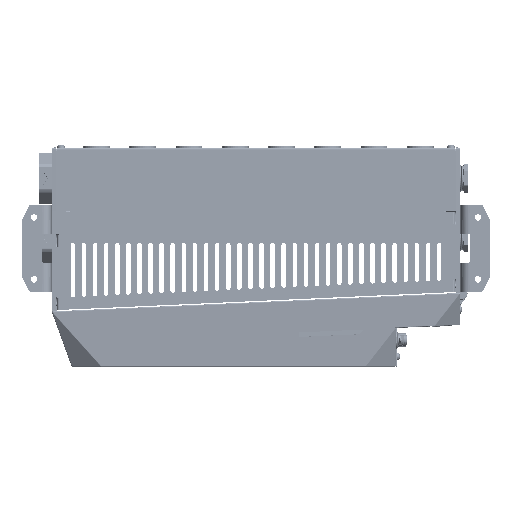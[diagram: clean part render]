
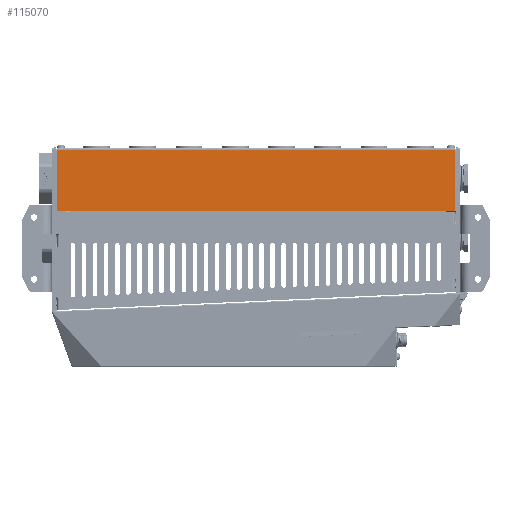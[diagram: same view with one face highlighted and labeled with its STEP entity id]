
A CAD part, left-side view. The second image highlights one B-rep face of the part: STEP entity #115070.
In plain terms, the highlighted planar face has unit normal (-1, 0, 0) as drawn and (0, -1, 0) by its records, which use the part's own axes.
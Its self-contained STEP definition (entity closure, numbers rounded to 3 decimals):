
#2556 = LINE ( 'NONE', #220484, #183594 ) ;
#8704 = PLANE ( 'NONE',  #114909 ) ;
#12255 = DIRECTION ( 'NONE',  ( 0., -1., 0. ) ) ;
#12379 = ORIENTED_EDGE ( 'NONE', *, *, #145878, .T. ) ;
#18455 = CARTESIAN_POINT ( 'NONE',  ( -68., -84., -214. ) ) ;
#29157 = DIRECTION ( 'NONE',  ( 0., -1., 0. ) ) ;
#34187 = EDGE_CURVE ( 'NONE', #339741, #169301, #235013, .T. ) ;
#35801 = FACE_OUTER_BOUND ( 'NONE', #261559, .T. ) ;
#44717 = CARTESIAN_POINT ( 'NONE',  ( -2., -84., 215. ) ) ;
#59848 = CARTESIAN_POINT ( 'NONE',  ( -68., -84., 215. ) ) ;
#68806 = CARTESIAN_POINT ( 'NONE',  ( -2., -84., -215. ) ) ;
#84094 = AXIS2_PLACEMENT_3D ( 'NONE', #90867, #89130, #172001 ) ;
#84995 = LINE ( 'NONE', #59848, #349911 ) ;
#89130 = DIRECTION ( 'NONE',  ( 0., -1., 0. ) ) ;
#90867 = CARTESIAN_POINT ( 'NONE',  ( -67., -84., 214. ) ) ;
#93702 = CARTESIAN_POINT ( 'NONE',  ( -2., -84., 215. ) ) ;
#114909 = AXIS2_PLACEMENT_3D ( 'NONE', #312998, #12255, #204904 ) ;
#115070 = ADVANCED_FACE ( 'NONE', ( #35801 ), #8704, .T. ) ;
#123793 = VERTEX_POINT ( 'NONE', #18455 ) ;
#131872 = VECTOR ( 'NONE', #133032, 1000. ) ;
#132047 = VERTEX_POINT ( 'NONE', #227909 ) ;
#133032 = DIRECTION ( 'NONE',  ( 0., 0., -1. ) ) ;
#134648 = EDGE_CURVE ( 'NONE', #282252, #339741, #213873, .T. ) ;
#137344 = DIRECTION ( 'NONE',  ( 1., 0., 0. ) ) ;
#137873 = DIRECTION ( 'NONE',  ( -1., 0., 0. ) ) ;
#145878 = EDGE_CURVE ( 'NONE', #247214, #123793, #84995, .T. ) ;
#147250 = EDGE_CURVE ( 'NONE', #123793, #169301, #241162, .T. ) ;
#148468 = ORIENTED_EDGE ( 'NONE', *, *, #34187, .F. ) ;
#169301 = VERTEX_POINT ( 'NONE', #342606 ) ;
#172001 = DIRECTION ( 'NONE',  ( 1., 0., 0. ) ) ;
#183594 = VECTOR ( 'NONE', #137873, 1000. ) ;
#186324 = DIRECTION ( 'NONE',  ( -1., 0., 0. ) ) ;
#188102 = CARTESIAN_POINT ( 'NONE',  ( 0., -84., -215. ) ) ;
#204904 = DIRECTION ( 'NONE',  ( 1., 0., 0. ) ) ;
#212513 = ORIENTED_EDGE ( 'NONE', *, *, #147250, .T. ) ;
#213873 = LINE ( 'NONE', #44717, #131872 ) ;
#219297 = CARTESIAN_POINT ( 'NONE',  ( -68., -84., 214. ) ) ;
#220484 = CARTESIAN_POINT ( 'NONE',  ( 0., -84., 215. ) ) ;
#227909 = CARTESIAN_POINT ( 'NONE',  ( -67., -84., 215. ) ) ;
#235013 = LINE ( 'NONE', #188102, #286402 ) ;
#239287 = EDGE_CURVE ( 'NONE', #132047, #247214, #313852, .T. ) ;
#241162 = CIRCLE ( 'NONE', #269535, 1. ) ;
#247214 = VERTEX_POINT ( 'NONE', #219297 ) ;
#261559 = EDGE_LOOP ( 'NONE', ( #12379, #212513, #148468, #344465, #341003, #298273 ) ) ;
#269535 = AXIS2_PLACEMENT_3D ( 'NONE', #273815, #29157, #137344 ) ;
#273815 = CARTESIAN_POINT ( 'NONE',  ( -67., -84., -214. ) ) ;
#273905 = DIRECTION ( 'NONE',  ( 0., 0., -1. ) ) ;
#282252 = VERTEX_POINT ( 'NONE', #93702 ) ;
#286402 = VECTOR ( 'NONE', #186324, 1000. ) ;
#297365 = EDGE_CURVE ( 'NONE', #282252, #132047, #2556, .T. ) ;
#298273 = ORIENTED_EDGE ( 'NONE', *, *, #239287, .T. ) ;
#312998 = CARTESIAN_POINT ( 'NONE',  ( 0., -84., 215. ) ) ;
#313852 = CIRCLE ( 'NONE', #84094, 1. ) ;
#339741 = VERTEX_POINT ( 'NONE', #68806 ) ;
#341003 = ORIENTED_EDGE ( 'NONE', *, *, #297365, .T. ) ;
#342606 = CARTESIAN_POINT ( 'NONE',  ( -67., -84., -215. ) ) ;
#344465 = ORIENTED_EDGE ( 'NONE', *, *, #134648, .F. ) ;
#349911 = VECTOR ( 'NONE', #273905, 1000. ) ;
